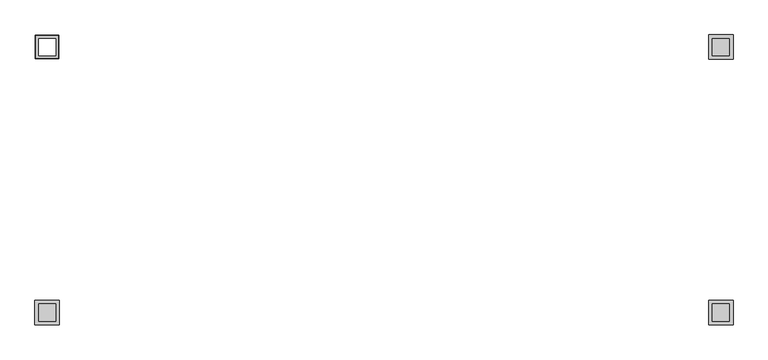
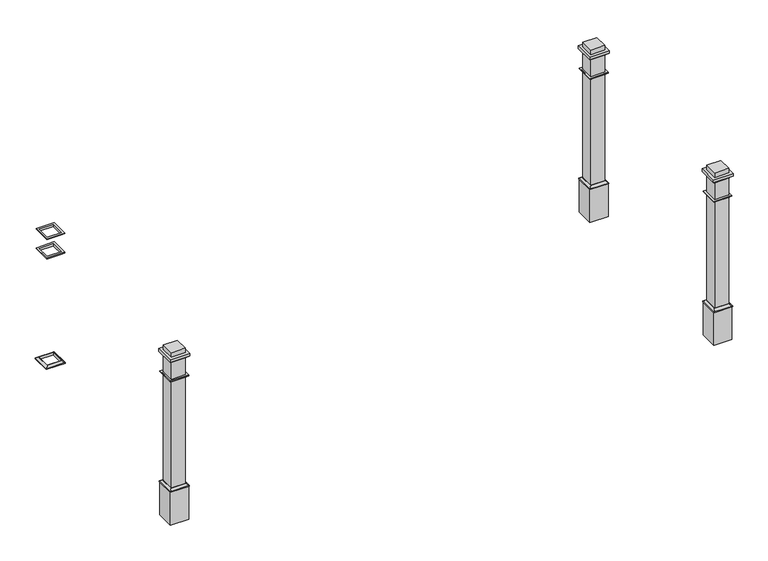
"""IFC4 building model written with IfcOpenShell, lengths in millimetres: railing geometry, Deco Type."""

from ifc_helpers import new_model, si_unit, frame, origin, place, context, project, spatial, polyline, ellipse_curve, outline, extrude, faceted_brep, source, transform, mapped, element, save
from ifc_brep_helpers import plane_surface, revolved_surface, advanced_brep


def railing_41ab062b(model_context):
    return source(origin(), model_context, "Body", "SolidModel", [
        advanced_brep(
        [(5407.8905852, 13388.0931951, 6197.6), (5407.8905852, 13388.0931951, 6219.825), (5287.2405852, 13388.0931951, 6219.825), (5287.2405852, 13388.0931951, 6197.6), (5430.1155852, 13410.3181951, 6203.95), (5430.1155852, 13410.3181951, 6197.6), (5265.0155852, 13410.3181951, 6197.6), (5265.0155852, 13410.3181951, 6203.95), (5414.2405852, 13394.4431951, 6219.825), (5280.8905852, 13394.4431951, 6219.825), (5287.2405852, 13267.4431951, 6219.825), (5287.2405852, 13267.4431951, 6197.6), (5265.0155852, 13245.2181951, 6197.6), (5265.0155852, 13245.2181951, 6203.95), (5280.8905852, 13261.0931951, 6219.825), (5407.8905852, 13267.4431951, 6219.825), (5407.8905852, 13267.4431951, 6197.6), (5430.1155852, 13245.2181951, 6197.6), (5430.1155852, 13245.2181951, 6203.95), (5414.2405852, 13261.0931951, 6219.825)],
        [
            (0, 1),
            (1, 2),
            (2, 3),
            (3, 0),
            (4, 5),
            (5, 6),
            (6, 7),
            (7, 4),
            (8, 4, ellipse_curve(frame((5430.1155852, 13410.3181951, 6219.825), z_axis=(0.7071067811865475, -0.7071067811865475, 0.0), x_axis=(-0.7071067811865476, -0.7071067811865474, 0.0)), 22.4506403, 15.875)),
            (7, 9, ellipse_curve(frame((5265.0155852, 13410.3181951, 6219.825), z_axis=(-0.7071067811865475, -0.7071067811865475, 0.0), x_axis=(-0.7071067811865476, 0.7071067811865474, 0.0)), 22.4506403, 15.875)),
            (9, 8),
            (2, 10),
            (10, 11),
            (11, 3),
            (6, 12),
            (12, 13),
            (13, 7),
            (13, 14, ellipse_curve(frame((5265.0155852, 13245.2181951, 6219.825), z_axis=(0.7071067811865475, -0.7071067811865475, 0.0), x_axis=(-0.7071067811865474, -0.7071067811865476, 0.0)), 22.4506403, 15.875)),
            (14, 9),
            (10, 15),
            (15, 16),
            (16, 11),
            (12, 17),
            (17, 18),
            (18, 13),
            (18, 19, ellipse_curve(frame((5430.1155852, 13245.2181951, 6219.825), z_axis=(0.7071067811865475, 0.7071067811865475, 0.0), x_axis=(0.7071067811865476, -0.7071067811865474, 0.0)), 22.4506403, 15.875)),
            (19, 14),
            (15, 1),
            (0, 16),
            (5, 17),
            (4, 18),
            (8, 19),
        ],
        [
            plane_surface(frame((5407.8905852, 13388.0931951, 6219.825), z_axis=(0.0, -1.0, 0.0), x_axis=(-1.0, 0.0, 0.0))),
            plane_surface(frame((5430.1155852, 13410.3181951, 6197.6), z_axis=(0.0, 1.0, 0.0), x_axis=(-1.0, 0.0, 0.0))),
            revolved_surface(polyline([(5249.14058520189, 13394.4431951, 6219.825), (5445.99058519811, 13394.4431951, 6219.825)]), (5407.8905852, 13410.3181951, 6219.825), (-1.0, 0.0, 0.0)),
            plane_surface(frame((5287.2405852, 13388.0931951, 6219.825), z_axis=(1.0, 0.0, 0.0), x_axis=(0.0, -1.0, 0.0))),
            plane_surface(frame((5265.0155852, 13410.3181951, 6197.6), z_axis=(-1.0, 0.0, 0.0), x_axis=(0.0, -1.0, 0.0))),
            revolved_surface(polyline([(5280.8905852, 13229.34319510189, 6219.825), (5280.8905852, 13426.19319509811, 6219.825)]), (5265.0155852, 13388.0931951, 6219.825), (0.0, -1.0, 0.0)),
            plane_surface(frame((5287.2405852, 13267.4431951, 6219.825), z_axis=(0.0, 1.0, 0.0), x_axis=(1.0, 0.0, 0.0))),
            plane_surface(frame((5265.0155852, 13245.2181951, 6197.6), z_axis=(0.0, -1.0, 0.0), x_axis=(1.0, 0.0, 0.0))),
            revolved_surface(polyline([(5445.99058519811, 13261.0931951, 6219.825), (5249.14058520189, 13261.0931951, 6219.825)]), (5287.2405852, 13245.2181951, 6219.825), (1.0, 0.0, 0.0)),
            plane_surface(frame((5407.8905852, 13267.4431951, 6219.825), z_axis=(-1.0, 0.0, 0.0), x_axis=(0.0, 1.0, 0.0))),
            plane_surface(frame((5407.8905852, 13267.4431951, 6197.6), z_axis=(0.0, 0.0, -1.0), x_axis=(0.0, 1.0, 0.0))),
            plane_surface(frame((5430.1155852, 13245.2181951, 6197.6), z_axis=(1.0, 0.0, 0.0), x_axis=(0.0, 1.0, 0.0))),
            revolved_surface(polyline([(5414.2405852, 13426.19319509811, 6219.825), (5414.2405852, 13229.34319510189, 6219.825)]), (5430.1155852, 13267.4431951, 6219.825), (0.0, 1.0, 0.0)),
            plane_surface(frame((5414.2405852, 13261.0931951, 6219.825), z_axis=(0.0, 0.0, 1.0), x_axis=(0.0, 1.0, 0.0))),
        ],
        [
            (0, [[1, 2, 3, 4]]),
            (1, [[5, 6, 7, 8]]),
            (2, [[9, -8, 10, 11]]),
            (3, [[-3, 12, 13, 14]]),
            (4, [[-7, 15, 16, 17]]),
            (5, [[-10, -17, 18, 19]]),
            (6, [[-13, 20, 21, 22]]),
            (7, [[-16, 23, 24, 25]]),
            (8, [[-18, -25, 26, 27]]),
            (9, [[-21, 28, -1, 29]]),
            (10, [[30, -23, -15, -6], [-14, -22, -29, -4]]),
            (11, [[-24, -30, -5, 31]]),
            (12, [[-26, -31, -9, 32]]),
            (13, [[-19, -27, -32, -11], [-28, -20, -12, -2]]),
        ],
    ),
        advanced_brep(
        [(5407.8905852, 13388.0931951, 7204.075), (5407.8905852, 13388.0931951, 7223.125), (5287.2405852, 13388.0931951, 7223.125), (5287.2405852, 13388.0931951, 7204.075), (5426.9405852, 13407.1431951, 7216.775), (5414.2405852, 13394.4431951, 7204.075), (5280.8905852, 13394.4431951, 7204.075), (5268.1905852, 13407.1431951, 7216.775), (5426.9405852, 13407.1431951, 7223.125), (5268.1905852, 13407.1431951, 7223.125), (5287.2405852, 13267.4431951, 7223.125), (5287.2405852, 13267.4431951, 7204.075), (5280.8905852, 13261.0931951, 7204.075), (5268.1905852, 13248.3931951, 7216.775), (5268.1905852, 13248.3931951, 7223.125), (5407.8905852, 13267.4431951, 7223.125), (5407.8905852, 13267.4431951, 7204.075), (5414.2405852, 13261.0931951, 7204.075), (5426.9405852, 13248.3931951, 7216.775), (5426.9405852, 13248.3931951, 7223.125)],
        [
            (0, 1),
            (1, 2),
            (2, 3),
            (3, 0),
            (4, 5, ellipse_curve(frame((5426.9405852, 13407.1431951, 7204.075), z_axis=(0.7071067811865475, -0.7071067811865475, 0.0), x_axis=(-0.7071067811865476, -0.7071067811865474, 0.0)), 17.9605122, 12.7)),
            (5, 6),
            (6, 7, ellipse_curve(frame((5268.1905852, 13407.1431951, 7204.075), z_axis=(-0.7071067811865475, -0.7071067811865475, 0.0), x_axis=(-0.7071067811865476, 0.7071067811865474, 0.0)), 17.9605122, 12.7)),
            (7, 4),
            (8, 4),
            (7, 9),
            (9, 8),
            (2, 10),
            (10, 11),
            (11, 3),
            (6, 12),
            (12, 13, ellipse_curve(frame((5268.1905852, 13248.3931951, 7204.075), z_axis=(0.7071067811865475, -0.7071067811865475, 0.0), x_axis=(-0.7071067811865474, -0.7071067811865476, 0.0)), 17.9605122, 12.7)),
            (13, 7),
            (13, 14),
            (14, 9),
            (10, 15),
            (15, 16),
            (16, 11),
            (12, 17),
            (17, 18, ellipse_curve(frame((5426.9405852, 13248.3931951, 7204.075), z_axis=(0.7071067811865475, 0.7071067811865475, 0.0), x_axis=(0.7071067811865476, -0.7071067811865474, 0.0)), 17.9605122, 12.7)),
            (18, 13),
            (18, 19),
            (19, 14),
            (19, 8),
            (1, 15),
            (0, 16),
            (5, 17),
            (4, 18),
        ],
        [
            plane_surface(frame((5407.8905852, 13388.0931951, 7223.125), z_axis=(0.0, -1.0, 0.0), x_axis=(-1.0, 0.0, 0.0))),
            revolved_surface(polyline([(5255.490585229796, 13394.443195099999, 7204.075), (5439.640585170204, 13394.443195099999, 7204.075)]), (5407.8905852, 13407.1431951, 7204.075), (-1.0, 0.0, 0.0)),
            plane_surface(frame((5426.9405852, 13407.1431951, 7216.775), z_axis=(0.0, 1.0, 0.0), x_axis=(-1.0, 0.0, 0.0))),
            plane_surface(frame((5287.2405852, 13388.0931951, 7223.125), z_axis=(1.0, 0.0, 0.0), x_axis=(0.0, -1.0, 0.0))),
            revolved_surface(polyline([(5280.8905852, 13235.693195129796, 7204.075), (5280.8905852, 13419.843195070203, 7204.075)]), (5268.1905852, 13388.0931951, 7204.075), (0.0, -1.0, 0.0)),
            plane_surface(frame((5268.1905852, 13407.1431951, 7216.775), z_axis=(-1.0, 0.0, 0.0), x_axis=(0.0, -1.0, 0.0))),
            plane_surface(frame((5287.2405852, 13267.4431951, 7223.125), z_axis=(0.0, 1.0, 0.0), x_axis=(1.0, 0.0, 0.0))),
            revolved_surface(polyline([(5439.640585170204, 13261.0931951, 7204.075), (5255.490585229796, 13261.0931951, 7204.075)]), (5287.2405852, 13248.3931951, 7204.075), (1.0, 0.0, 0.0)),
            plane_surface(frame((5268.1905852, 13248.3931951, 7216.775), z_axis=(0.0, -1.0, 0.0), x_axis=(1.0, 0.0, 0.0))),
            plane_surface(frame((5426.9405852, 13248.3931951, 7223.125), z_axis=(0.0, 0.0, 1.0), x_axis=(0.0, 1.0, 0.0))),
            plane_surface(frame((5407.8905852, 13267.4431951, 7223.125), z_axis=(-1.0, 0.0, 0.0), x_axis=(0.0, 1.0, 0.0))),
            plane_surface(frame((5407.8905852, 13267.4431951, 7204.075), z_axis=(0.0, 0.0, -1.0), x_axis=(0.0, 1.0, 0.0))),
            revolved_surface(polyline([(5414.2405852, 13419.843195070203, 7204.075), (5414.2405852, 13235.693195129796, 7204.075)]), (5426.9405852, 13267.4431951, 7204.075), (0.0, 1.0, 0.0)),
            plane_surface(frame((5426.9405852, 13248.3931951, 7216.775), z_axis=(1.0, 0.0, 0.0), x_axis=(0.0, 1.0, 0.0))),
        ],
        [
            (0, [[1, 2, 3, 4]]),
            (1, [[5, 6, 7, 8]]),
            (2, [[9, -8, 10, 11]]),
            (3, [[-3, 12, 13, 14]]),
            (4, [[-7, 15, 16, 17]]),
            (5, [[-10, -17, 18, 19]]),
            (6, [[-13, 20, 21, 22]]),
            (7, [[-16, 23, 24, 25]]),
            (8, [[-18, -25, 26, 27]]),
            (9, [[-19, -27, 28, -11], [29, -20, -12, -2]]),
            (10, [[-21, -29, -1, 30]]),
            (11, [[31, -23, -15, -6], [-14, -22, -30, -4]]),
            (12, [[-24, -31, -5, 32]]),
            (13, [[-26, -32, -9, -28]]),
        ],
    ),
        faceted_brep([(5407.8905852, 13388.0931951, 7381.875), (5407.8905852, 13388.0931951, 7400.925), (5287.2405852, 13388.0931951, 7400.925), (5287.2405852, 13388.0931951, 7381.875), (5414.2405852, 13394.4431951, 7394.575), (5414.2405852, 13394.4431951, 7381.875), (5280.8905852, 13394.4431951, 7381.875), (5280.8905852, 13394.4431951, 7394.575), (5426.9405852, 13407.1431951, 7400.925), (5426.9405852, 13407.1431951, 7394.575), (5268.1905852, 13407.1431951, 7394.575), (5268.1905852, 13407.1431951, 7400.925), (5287.2405852, 13267.4431951, 7400.925), (5287.2405852, 13267.4431951, 7381.875), (5280.8905852, 13261.0931951, 7381.875), (5280.8905852, 13261.0931951, 7394.575), (5268.1905852, 13248.3931951, 7394.575), (5268.1905852, 13248.3931951, 7400.925), (5407.8905852, 13267.4431951, 7400.925), (5407.8905852, 13267.4431951, 7381.875), (5414.2405852, 13261.0931951, 7381.875), (5414.2405852, 13261.0931951, 7394.575), (5426.9405852, 13248.3931951, 7394.575), (5426.9405852, 13248.3931951, 7400.925)], [[[0, 1, 2, 3]], [[4, 5, 6, 7]], [[8, 9, 10, 11]], [[3, 2, 12, 13]], [[7, 6, 14, 15]], [[11, 10, 16, 17]], [[13, 12, 18, 19]], [[15, 14, 20, 21]], [[17, 16, 22, 23]], [[19, 18, 1, 0]], [[5, 20, 14, 6], [3, 13, 19, 0]], [[21, 20, 5, 4]], [[9, 22, 16, 10], [7, 15, 21, 4]], [[23, 22, 9, 8]], [[11, 17, 23, 8], [1, 18, 12, 2]]]),
        extrude(outline(polyline([(10010.8468352, 13248.3931951), (10010.8468352, 13407.1431951), (10169.5968352, 13407.1431951), (10169.5968352, 13248.3931951), (10010.8468352, 13248.3931951)])), frame((0.0, 0.0, 5892.8), z_axis=(0.0, 0.0, 1.0), x_axis=(1.0, 0.0, 0.0)), (0.0, 0.0, 1.0), 304.8),
        extrude(outline(polyline([(10029.8968352, 13267.4431951), (10029.8968352, 13388.0931951), (10150.5468352, 13388.0931951), (10150.5468352, 13267.4431951), (10029.8968352, 13267.4431951)])), frame((0.0, 0.0, 6197.6), z_axis=(0.0, 0.0, 1.0), x_axis=(1.0, 0.0, 0.0)), (0.0, 0.0, 1.0), 1270.0),
        extrude(outline(polyline([(10175.9468352, 13242.0431951), (10004.4968352, 13242.0431951), (10004.4968352, 13413.4931951), (10175.9468352, 13413.4931951), (10175.9468352, 13242.0431951)]), holes=[polyline([(10150.5468352, 13388.0931951), (10029.8968352, 13388.0931951), (10029.8968352, 13267.4431951), (10150.5468352, 13267.4431951), (10150.5468352, 13388.0931951)])]), frame((0.0, 0.0, 7400.925), z_axis=(0.0, 0.0, 1.0), x_axis=(1.0, 0.0, 0.0)), (0.0, 0.0, 1.0), 25.4),
        advanced_brep(
        [(10150.5468352, 13267.4431951, 6197.6), (10150.5468352, 13267.4431951, 6219.825), (10150.5468352, 13388.0931951, 6219.825), (10150.5468352, 13388.0931951, 6197.6), (10172.7718352, 13245.2181951, 6203.95), (10172.7718352, 13245.2181951, 6197.6), (10172.7718352, 13410.3181951, 6197.6), (10172.7718352, 13410.3181951, 6203.95), (10156.8968352, 13261.0931951, 6219.825), (10156.8968352, 13394.4431951, 6219.825), (10029.8968352, 13388.0931951, 6219.825), (10029.8968352, 13388.0931951, 6197.6), (10007.6718352, 13410.3181951, 6197.6), (10007.6718352, 13410.3181951, 6203.95), (10023.5468352, 13394.4431951, 6219.825), (10029.8968352, 13267.4431951, 6219.825), (10029.8968352, 13267.4431951, 6197.6), (10007.6718352, 13245.2181951, 6197.6), (10007.6718352, 13245.2181951, 6203.95), (10023.5468352, 13261.0931951, 6219.825)],
        [
            (0, 1),
            (1, 2),
            (2, 3),
            (3, 0),
            (4, 5),
            (5, 6),
            (6, 7),
            (7, 4),
            (8, 4, ellipse_curve(frame((10172.7718352, 13245.2181951, 6219.825), z_axis=(-0.7071067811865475, -0.7071067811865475, 0.0), x_axis=(-0.7071067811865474, 0.7071067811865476, 0.0)), 22.4506403, 15.875)),
            (7, 9, ellipse_curve(frame((10172.7718352, 13410.3181951, 6219.825), z_axis=(-0.7071067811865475, 0.7071067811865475, 0.0), x_axis=(0.7071067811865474, 0.7071067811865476, 0.0)), 22.4506403, 15.875)),
            (9, 8),
            (2, 10),
            (10, 11),
            (11, 3),
            (6, 12),
            (12, 13),
            (13, 7),
            (13, 14, ellipse_curve(frame((10007.6718352, 13410.3181951, 6219.825), z_axis=(-0.7071067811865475, -0.7071067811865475, 0.0), x_axis=(-0.7071067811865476, 0.7071067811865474, 0.0)), 22.4506403, 15.875)),
            (14, 9),
            (10, 15),
            (15, 16),
            (16, 11),
            (12, 17),
            (17, 18),
            (18, 13),
            (18, 19, ellipse_curve(frame((10007.6718352, 13245.2181951, 6219.825), z_axis=(0.7071067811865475, -0.7071067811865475, 0.0), x_axis=(-0.7071067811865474, -0.7071067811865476, 0.0)), 22.4506403, 15.875)),
            (19, 14),
            (15, 1),
            (0, 16),
            (5, 17),
            (4, 18),
            (8, 19),
        ],
        [
            plane_surface(frame((10150.5468352, 13267.4431951, 6219.825), z_axis=(-1.0, 0.0, 0.0), x_axis=(0.0, 1.0, 0.0))),
            plane_surface(frame((10172.7718352, 13245.2181951, 6197.6), z_axis=(1.0, 0.0, 0.0), x_axis=(0.0, 1.0, 0.0))),
            revolved_surface(polyline([(10156.8968352, 13426.19319509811, 6219.825), (10156.8968352, 13229.34319510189, 6219.825)]), (10172.7718352, 13267.4431951, 6219.825), (0.0, 1.0, 0.0)),
            plane_surface(frame((10150.5468352, 13388.0931951, 6219.825), z_axis=(0.0, -1.0, 0.0), x_axis=(-1.0, 0.0, 0.0))),
            plane_surface(frame((10172.7718352, 13410.3181951, 6197.6), z_axis=(0.0, 1.0, 0.0), x_axis=(-1.0, 0.0, 0.0))),
            revolved_surface(polyline([(9991.79683520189, 13394.4431951, 6219.825), (10188.64683519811, 13394.4431951, 6219.825)]), (10150.5468352, 13410.3181951, 6219.825), (-1.0, 0.0, 0.0)),
            plane_surface(frame((10029.8968352, 13388.0931951, 6219.825), z_axis=(1.0, 0.0, 0.0), x_axis=(0.0, -1.0, 0.0))),
            plane_surface(frame((10007.6718352, 13410.3181951, 6197.6), z_axis=(-1.0, 0.0, 0.0), x_axis=(0.0, -1.0, 0.0))),
            revolved_surface(polyline([(10023.5468352, 13229.34319510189, 6219.825), (10023.5468352, 13426.19319509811, 6219.825)]), (10007.6718352, 13388.0931951, 6219.825), (0.0, -1.0, 0.0)),
            plane_surface(frame((10029.8968352, 13267.4431951, 6219.825), z_axis=(0.0, 1.0, 0.0), x_axis=(1.0, 0.0, 0.0))),
            plane_surface(frame((10029.8968352, 13267.4431951, 6197.6), z_axis=(0.0, 0.0, -1.0), x_axis=(1.0, 0.0, 0.0))),
            plane_surface(frame((10007.6718352, 13245.2181951, 6197.6), z_axis=(0.0, -1.0, 0.0), x_axis=(1.0, 0.0, 0.0))),
            revolved_surface(polyline([(10188.64683519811, 13261.0931951, 6219.825), (9991.79683520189, 13261.0931951, 6219.825)]), (10029.8968352, 13245.2181951, 6219.825), (1.0, 0.0, 0.0)),
            plane_surface(frame((10023.5468352, 13261.0931951, 6219.825), z_axis=(0.0, 0.0, 1.0), x_axis=(1.0, 0.0, 0.0))),
        ],
        [
            (0, [[1, 2, 3, 4]]),
            (1, [[5, 6, 7, 8]]),
            (2, [[9, -8, 10, 11]]),
            (3, [[-3, 12, 13, 14]]),
            (4, [[-7, 15, 16, 17]]),
            (5, [[-10, -17, 18, 19]]),
            (6, [[-13, 20, 21, 22]]),
            (7, [[-16, 23, 24, 25]]),
            (8, [[-18, -25, 26, 27]]),
            (9, [[-21, 28, -1, 29]]),
            (10, [[30, -23, -15, -6], [-14, -22, -29, -4]]),
            (11, [[-24, -30, -5, 31]]),
            (12, [[-26, -31, -9, 32]]),
            (13, [[-19, -27, -32, -11], [-28, -20, -12, -2]]),
        ],
    ),
        advanced_brep(
        [(10150.5468352, 13267.4431951, 7204.075), (10150.5468352, 13267.4431951, 7223.125), (10150.5468352, 13388.0931951, 7223.125), (10150.5468352, 13388.0931951, 7204.075), (10169.5968352, 13248.3931951, 7216.775), (10156.8968352, 13261.0931951, 7204.075), (10156.8968352, 13394.4431951, 7204.075), (10169.5968352, 13407.1431951, 7216.775), (10169.5968352, 13248.3931951, 7223.125), (10169.5968352, 13407.1431951, 7223.125), (10029.8968352, 13388.0931951, 7223.125), (10029.8968352, 13388.0931951, 7204.075), (10023.5468352, 13394.4431951, 7204.075), (10010.8468352, 13407.1431951, 7216.775), (10010.8468352, 13407.1431951, 7223.125), (10029.8968352, 13267.4431951, 7223.125), (10029.8968352, 13267.4431951, 7204.075), (10023.5468352, 13261.0931951, 7204.075), (10010.8468352, 13248.3931951, 7216.775), (10010.8468352, 13248.3931951, 7223.125)],
        [
            (0, 1),
            (1, 2),
            (2, 3),
            (3, 0),
            (4, 5, ellipse_curve(frame((10169.5968352, 13248.3931951, 7204.075), z_axis=(-0.7071067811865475, -0.7071067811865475, 0.0), x_axis=(-0.7071067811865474, 0.7071067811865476, 0.0)), 17.9605122, 12.7)),
            (5, 6),
            (6, 7, ellipse_curve(frame((10169.5968352, 13407.1431951, 7204.075), z_axis=(-0.7071067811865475, 0.7071067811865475, 0.0), x_axis=(0.7071067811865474, 0.7071067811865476, 0.0)), 17.9605122, 12.7)),
            (7, 4),
            (8, 4),
            (7, 9),
            (9, 8),
            (2, 10),
            (10, 11),
            (11, 3),
            (6, 12),
            (12, 13, ellipse_curve(frame((10010.8468352, 13407.1431951, 7204.075), z_axis=(-0.7071067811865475, -0.7071067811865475, 0.0), x_axis=(-0.7071067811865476, 0.7071067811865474, 0.0)), 17.9605122, 12.7)),
            (13, 7),
            (13, 14),
            (14, 9),
            (10, 15),
            (15, 16),
            (16, 11),
            (12, 17),
            (17, 18, ellipse_curve(frame((10010.8468352, 13248.3931951, 7204.075), z_axis=(0.7071067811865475, -0.7071067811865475, 0.0), x_axis=(-0.7071067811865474, -0.7071067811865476, 0.0)), 17.9605122, 12.7)),
            (18, 13),
            (18, 19),
            (19, 14),
            (19, 8),
            (1, 15),
            (0, 16),
            (5, 17),
            (4, 18),
        ],
        [
            plane_surface(frame((10150.5468352, 13267.4431951, 7223.125), z_axis=(-1.0, 0.0, 0.0), x_axis=(0.0, 1.0, 0.0))),
            revolved_surface(polyline([(10156.8968352, 13419.843195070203, 7204.075), (10156.8968352, 13235.693195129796, 7204.075)]), (10169.5968352, 13267.4431951, 7204.075), (0.0, 1.0, 0.0)),
            plane_surface(frame((10169.5968352, 13248.3931951, 7216.775), z_axis=(1.0, 0.0, 0.0), x_axis=(0.0, 1.0, 0.0))),
            plane_surface(frame((10150.5468352, 13388.0931951, 7223.125), z_axis=(0.0, -1.0, 0.0), x_axis=(-1.0, 0.0, 0.0))),
            revolved_surface(polyline([(9998.146835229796, 13394.443195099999, 7204.075), (10182.296835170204, 13394.443195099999, 7204.075)]), (10150.5468352, 13407.1431951, 7204.075), (-1.0, 0.0, 0.0)),
            plane_surface(frame((10169.5968352, 13407.1431951, 7216.775), z_axis=(0.0, 1.0, 0.0), x_axis=(-1.0, 0.0, 0.0))),
            plane_surface(frame((10029.8968352, 13388.0931951, 7223.125), z_axis=(1.0, 0.0, 0.0), x_axis=(0.0, -1.0, 0.0))),
            revolved_surface(polyline([(10023.5468352, 13235.693195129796, 7204.075), (10023.5468352, 13419.843195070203, 7204.075)]), (10010.8468352, 13388.0931951, 7204.075), (0.0, -1.0, 0.0)),
            plane_surface(frame((10010.8468352, 13407.1431951, 7216.775), z_axis=(-1.0, 0.0, 0.0), x_axis=(0.0, -1.0, 0.0))),
            plane_surface(frame((10010.8468352, 13248.3931951, 7223.125), z_axis=(0.0, 0.0, 1.0), x_axis=(1.0, 0.0, 0.0))),
            plane_surface(frame((10029.8968352, 13267.4431951, 7223.125), z_axis=(0.0, 1.0, 0.0), x_axis=(1.0, 0.0, 0.0))),
            plane_surface(frame((10029.8968352, 13267.4431951, 7204.075), z_axis=(0.0, 0.0, -1.0), x_axis=(1.0, 0.0, 0.0))),
            revolved_surface(polyline([(10182.296835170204, 13261.0931951, 7204.075), (9998.146835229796, 13261.0931951, 7204.075)]), (10029.8968352, 13248.3931951, 7204.075), (1.0, 0.0, 0.0)),
            plane_surface(frame((10010.8468352, 13248.3931951, 7216.775), z_axis=(0.0, -1.0, 0.0), x_axis=(1.0, 0.0, 0.0))),
        ],
        [
            (0, [[1, 2, 3, 4]]),
            (1, [[5, 6, 7, 8]]),
            (2, [[9, -8, 10, 11]]),
            (3, [[-3, 12, 13, 14]]),
            (4, [[-7, 15, 16, 17]]),
            (5, [[-10, -17, 18, 19]]),
            (6, [[-13, 20, 21, 22]]),
            (7, [[-16, 23, 24, 25]]),
            (8, [[-18, -25, 26, 27]]),
            (9, [[-19, -27, 28, -11], [29, -20, -12, -2]]),
            (10, [[-21, -29, -1, 30]]),
            (11, [[31, -23, -15, -6], [-14, -22, -30, -4]]),
            (12, [[-24, -31, -5, 32]]),
            (13, [[-26, -32, -9, -28]]),
        ],
    ),
        faceted_brep([(10150.5468352, 13267.4431951, 7381.875), (10150.5468352, 13267.4431951, 7400.925), (10150.5468352, 13388.0931951, 7400.925), (10150.5468352, 13388.0931951, 7381.875), (10156.8968352, 13261.0931951, 7394.575), (10156.8968352, 13261.0931951, 7381.875), (10156.8968352, 13394.4431951, 7381.875), (10156.8968352, 13394.4431951, 7394.575), (10169.5968352, 13248.3931951, 7400.925), (10169.5968352, 13248.3931951, 7394.575), (10169.5968352, 13407.1431951, 7394.575), (10169.5968352, 13407.1431951, 7400.925), (10029.8968352, 13388.0931951, 7400.925), (10029.8968352, 13388.0931951, 7381.875), (10023.5468352, 13394.4431951, 7381.875), (10023.5468352, 13394.4431951, 7394.575), (10010.8468352, 13407.1431951, 7394.575), (10010.8468352, 13407.1431951, 7400.925), (10029.8968352, 13267.4431951, 7400.925), (10029.8968352, 13267.4431951, 7381.875), (10023.5468352, 13261.0931951, 7381.875), (10023.5468352, 13261.0931951, 7394.575), (10010.8468352, 13248.3931951, 7394.575), (10010.8468352, 13248.3931951, 7400.925)], [[[0, 1, 2, 3]], [[4, 5, 6, 7]], [[8, 9, 10, 11]], [[3, 2, 12, 13]], [[7, 6, 14, 15]], [[11, 10, 16, 17]], [[13, 12, 18, 19]], [[15, 14, 20, 21]], [[17, 16, 22, 23]], [[19, 18, 1, 0]], [[5, 20, 14, 6], [3, 13, 19, 0]], [[21, 20, 5, 4]], [[9, 22, 16, 10], [7, 15, 21, 4]], [[23, 22, 9, 8]], [[11, 17, 23, 8], [1, 18, 12, 2]]]),
        extrude(outline(polyline([(5426.9405852, 11535.0838201), (5426.9405852, 11376.3338201), (5268.1905852, 11376.3338201), (5268.1905852, 11535.0838201), (5426.9405852, 11535.0838201)])), frame((0.0, 0.0, 5892.8), z_axis=(0.0, 0.0, 1.0), x_axis=(1.0, 0.0, 0.0)), (0.0, 0.0, 1.0), 304.8),
        extrude(outline(polyline([(5407.8905852, 11516.0338201), (5407.8905852, 11395.3838201), (5287.2405852, 11395.3838201), (5287.2405852, 11516.0338201), (5407.8905852, 11516.0338201)])), frame((0.0, 0.0, 6197.6), z_axis=(0.0, 0.0, 1.0), x_axis=(1.0, 0.0, 0.0)), (0.0, 0.0, 1.0), 1270.0),
        extrude(outline(polyline([(5261.8405852, 11541.4338201), (5433.2905852, 11541.4338201), (5433.2905852, 11369.9838201), (5261.8405852, 11369.9838201), (5261.8405852, 11541.4338201)]), holes=[polyline([(5287.2405852, 11395.3838201), (5407.8905852, 11395.3838201), (5407.8905852, 11516.0338201), (5287.2405852, 11516.0338201), (5287.2405852, 11395.3838201)])]), frame((0.0, 0.0, 7400.925), z_axis=(0.0, 0.0, 1.0), x_axis=(1.0, 0.0, 0.0)), (0.0, 0.0, 1.0), 25.4),
        advanced_brep(
        [(5287.2405852, 11516.0338201, 6197.6), (5287.2405852, 11516.0338201, 6219.825), (5287.2405852, 11395.3838201, 6219.825), (5287.2405852, 11395.3838201, 6197.6), (5265.0155852, 11538.2588201, 6203.95), (5265.0155852, 11538.2588201, 6197.6), (5265.0155852, 11373.1588201, 6197.6), (5265.0155852, 11373.1588201, 6203.95), (5280.8905852, 11522.3838201, 6219.825), (5280.8905852, 11389.0338201, 6219.825), (5407.8905852, 11395.3838201, 6219.825), (5407.8905852, 11395.3838201, 6197.6), (5430.1155852, 11373.1588201, 6197.6), (5430.1155852, 11373.1588201, 6203.95), (5414.2405852, 11389.0338201, 6219.825), (5407.8905852, 11516.0338201, 6219.825), (5407.8905852, 11516.0338201, 6197.6), (5430.1155852, 11538.2588201, 6197.6), (5430.1155852, 11538.2588201, 6203.95), (5414.2405852, 11522.3838201, 6219.825)],
        [
            (0, 1),
            (1, 2),
            (2, 3),
            (3, 0),
            (4, 5),
            (5, 6),
            (6, 7),
            (7, 4),
            (8, 4, ellipse_curve(frame((5265.0155852, 11538.2588201, 6219.825), z_axis=(0.7071067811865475, 0.7071067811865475, 0.0), x_axis=(0.7071067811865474, -0.7071067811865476, 0.0)), 22.4506403, 15.875)),
            (7, 9, ellipse_curve(frame((5265.0155852, 11373.1588201, 6219.825), z_axis=(0.7071067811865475, -0.7071067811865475, 0.0), x_axis=(-0.7071067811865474, -0.7071067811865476, 0.0)), 22.4506403, 15.875)),
            (9, 8),
            (2, 10),
            (10, 11),
            (11, 3),
            (6, 12),
            (12, 13),
            (13, 7),
            (13, 14, ellipse_curve(frame((5430.1155852, 11373.1588201, 6219.825), z_axis=(0.7071067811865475, 0.7071067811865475, 0.0), x_axis=(0.7071067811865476, -0.7071067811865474, 0.0)), 22.4506403, 15.875)),
            (14, 9),
            (10, 15),
            (15, 16),
            (16, 11),
            (12, 17),
            (17, 18),
            (18, 13),
            (18, 19, ellipse_curve(frame((5430.1155852, 11538.2588201, 6219.825), z_axis=(-0.7071067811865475, 0.7071067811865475, 0.0), x_axis=(0.7071067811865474, 0.7071067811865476, 0.0)), 22.4506403, 15.875)),
            (19, 14),
            (15, 1),
            (0, 16),
            (5, 17),
            (4, 18),
            (8, 19),
        ],
        [
            plane_surface(frame((5287.2405852, 11516.0338201, 6219.825), z_axis=(1.0, 0.0, 0.0), x_axis=(0.0, -1.0, 0.0))),
            plane_surface(frame((5265.0155852, 11538.2588201, 6197.6), z_axis=(-1.0, 0.0, 0.0), x_axis=(0.0, -1.0, 0.0))),
            revolved_surface(polyline([(5280.8905852, 11357.28382010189, 6219.825), (5280.8905852, 11554.13382009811, 6219.825)]), (5265.0155852, 11516.0338201, 6219.825), (0.0, -1.0, 0.0)),
            plane_surface(frame((5287.2405852, 11395.3838201, 6219.825), z_axis=(0.0, 1.0, 0.0), x_axis=(1.0, 0.0, 0.0))),
            plane_surface(frame((5265.0155852, 11373.1588201, 6197.6), z_axis=(0.0, -1.0, 0.0), x_axis=(1.0, 0.0, 0.0))),
            revolved_surface(polyline([(5445.99058519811, 11389.0338201, 6219.825), (5249.14058520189, 11389.0338201, 6219.825)]), (5287.2405852, 11373.1588201, 6219.825), (1.0, 0.0, 0.0)),
            plane_surface(frame((5407.8905852, 11395.3838201, 6219.825), z_axis=(-1.0, 0.0, 0.0), x_axis=(0.0, 1.0, 0.0))),
            plane_surface(frame((5430.1155852, 11373.1588201, 6197.6), z_axis=(1.0, 0.0, 0.0), x_axis=(0.0, 1.0, 0.0))),
            revolved_surface(polyline([(5414.2405852, 11554.13382009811, 6219.825), (5414.2405852, 11357.28382010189, 6219.825)]), (5430.1155852, 11395.3838201, 6219.825), (0.0, 1.0, 0.0)),
            plane_surface(frame((5407.8905852, 11516.0338201, 6219.825), z_axis=(0.0, -1.0, 0.0), x_axis=(-1.0, 0.0, 0.0))),
            plane_surface(frame((5407.8905852, 11516.0338201, 6197.6), z_axis=(0.0, 0.0, -1.0), x_axis=(-1.0, 0.0, 0.0))),
            plane_surface(frame((5430.1155852, 11538.2588201, 6197.6), z_axis=(0.0, 1.0, 0.0), x_axis=(-1.0, 0.0, 0.0))),
            revolved_surface(polyline([(5249.14058520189, 11522.3838201, 6219.825), (5445.99058519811, 11522.3838201, 6219.825)]), (5407.8905852, 11538.2588201, 6219.825), (-1.0, 0.0, 0.0)),
            plane_surface(frame((5414.2405852, 11522.3838201, 6219.825), z_axis=(0.0, 0.0, 1.0), x_axis=(-1.0, 0.0, 0.0))),
        ],
        [
            (0, [[1, 2, 3, 4]]),
            (1, [[5, 6, 7, 8]]),
            (2, [[9, -8, 10, 11]]),
            (3, [[-3, 12, 13, 14]]),
            (4, [[-7, 15, 16, 17]]),
            (5, [[-10, -17, 18, 19]]),
            (6, [[-13, 20, 21, 22]]),
            (7, [[-16, 23, 24, 25]]),
            (8, [[-18, -25, 26, 27]]),
            (9, [[-21, 28, -1, 29]]),
            (10, [[30, -23, -15, -6], [-14, -22, -29, -4]]),
            (11, [[-24, -30, -5, 31]]),
            (12, [[-26, -31, -9, 32]]),
            (13, [[-19, -27, -32, -11], [-28, -20, -12, -2]]),
        ],
    ),
        advanced_brep(
        [(5287.2405852, 11516.0338201, 7204.075), (5287.2405852, 11516.0338201, 7223.125), (5287.2405852, 11395.3838201, 7223.125), (5287.2405852, 11395.3838201, 7204.075), (5268.1905852, 11535.0838201, 7216.775), (5280.8905852, 11522.3838201, 7204.075), (5280.8905852, 11389.0338201, 7204.075), (5268.1905852, 11376.3338201, 7216.775), (5268.1905852, 11535.0838201, 7223.125), (5268.1905852, 11376.3338201, 7223.125), (5407.8905852, 11395.3838201, 7223.125), (5407.8905852, 11395.3838201, 7204.075), (5414.2405852, 11389.0338201, 7204.075), (5426.9405852, 11376.3338201, 7216.775), (5426.9405852, 11376.3338201, 7223.125), (5407.8905852, 11516.0338201, 7223.125), (5407.8905852, 11516.0338201, 7204.075), (5414.2405852, 11522.3838201, 7204.075), (5426.9405852, 11535.0838201, 7216.775), (5426.9405852, 11535.0838201, 7223.125)],
        [
            (0, 1),
            (1, 2),
            (2, 3),
            (3, 0),
            (4, 5, ellipse_curve(frame((5268.1905852, 11535.0838201, 7204.075), z_axis=(0.7071067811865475, 0.7071067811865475, 0.0), x_axis=(0.7071067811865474, -0.7071067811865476, 0.0)), 17.9605122, 12.7)),
            (5, 6),
            (6, 7, ellipse_curve(frame((5268.1905852, 11376.3338201, 7204.075), z_axis=(0.7071067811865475, -0.7071067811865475, 0.0), x_axis=(-0.7071067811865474, -0.7071067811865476, 0.0)), 17.9605122, 12.7)),
            (7, 4),
            (8, 4),
            (7, 9),
            (9, 8),
            (2, 10),
            (10, 11),
            (11, 3),
            (6, 12),
            (12, 13, ellipse_curve(frame((5426.9405852, 11376.3338201, 7204.075), z_axis=(0.7071067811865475, 0.7071067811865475, 0.0), x_axis=(0.7071067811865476, -0.7071067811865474, 0.0)), 17.9605122, 12.7)),
            (13, 7),
            (13, 14),
            (14, 9),
            (10, 15),
            (15, 16),
            (16, 11),
            (12, 17),
            (17, 18, ellipse_curve(frame((5426.9405852, 11535.0838201, 7204.075), z_axis=(-0.7071067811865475, 0.7071067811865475, 0.0), x_axis=(0.7071067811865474, 0.7071067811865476, 0.0)), 17.9605122, 12.7)),
            (18, 13),
            (18, 19),
            (19, 14),
            (19, 8),
            (1, 15),
            (0, 16),
            (5, 17),
            (4, 18),
        ],
        [
            plane_surface(frame((5287.2405852, 11516.0338201, 7223.125), z_axis=(1.0, 0.0, 0.0), x_axis=(0.0, -1.0, 0.0))),
            revolved_surface(polyline([(5280.8905852, 11363.633820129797, 7204.075), (5280.8905852, 11547.783820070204, 7204.075)]), (5268.1905852, 11516.0338201, 7204.075), (0.0, -1.0, 0.0)),
            plane_surface(frame((5268.1905852, 11535.0838201, 7216.775), z_axis=(-1.0, 0.0, 0.0), x_axis=(0.0, -1.0, 0.0))),
            plane_surface(frame((5287.2405852, 11395.3838201, 7223.125), z_axis=(0.0, 1.0, 0.0), x_axis=(1.0, 0.0, 0.0))),
            revolved_surface(polyline([(5439.640585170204, 11389.033820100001, 7204.075), (5255.490585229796, 11389.033820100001, 7204.075)]), (5287.2405852, 11376.3338201, 7204.075), (1.0, 0.0, 0.0)),
            plane_surface(frame((5268.1905852, 11376.3338201, 7216.775), z_axis=(0.0, -1.0, 0.0), x_axis=(1.0, 0.0, 0.0))),
            plane_surface(frame((5407.8905852, 11395.3838201, 7223.125), z_axis=(-1.0, 0.0, 0.0), x_axis=(0.0, 1.0, 0.0))),
            revolved_surface(polyline([(5414.2405852, 11547.783820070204, 7204.075), (5414.2405852, 11363.633820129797, 7204.075)]), (5426.9405852, 11395.3838201, 7204.075), (0.0, 1.0, 0.0)),
            plane_surface(frame((5426.9405852, 11376.3338201, 7216.775), z_axis=(1.0, 0.0, 0.0), x_axis=(0.0, 1.0, 0.0))),
            plane_surface(frame((5426.9405852, 11535.0838201, 7223.125), z_axis=(0.0, 0.0, 1.0), x_axis=(-1.0, 0.0, 0.0))),
            plane_surface(frame((5407.8905852, 11516.0338201, 7223.125), z_axis=(0.0, -1.0, 0.0), x_axis=(-1.0, 0.0, 0.0))),
            plane_surface(frame((5407.8905852, 11516.0338201, 7204.075), z_axis=(0.0, 0.0, -1.0), x_axis=(-1.0, 0.0, 0.0))),
            revolved_surface(polyline([(5255.490585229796, 11522.3838201, 7204.075), (5439.640585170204, 11522.3838201, 7204.075)]), (5407.8905852, 11535.0838201, 7204.075), (-1.0, 0.0, 0.0)),
            plane_surface(frame((5426.9405852, 11535.0838201, 7216.775), z_axis=(0.0, 1.0, 0.0), x_axis=(-1.0, 0.0, 0.0))),
        ],
        [
            (0, [[1, 2, 3, 4]]),
            (1, [[5, 6, 7, 8]]),
            (2, [[9, -8, 10, 11]]),
            (3, [[-3, 12, 13, 14]]),
            (4, [[-7, 15, 16, 17]]),
            (5, [[-10, -17, 18, 19]]),
            (6, [[-13, 20, 21, 22]]),
            (7, [[-16, 23, 24, 25]]),
            (8, [[-18, -25, 26, 27]]),
            (9, [[-19, -27, 28, -11], [29, -20, -12, -2]]),
            (10, [[-21, -29, -1, 30]]),
            (11, [[31, -23, -15, -6], [-14, -22, -30, -4]]),
            (12, [[-24, -31, -5, 32]]),
            (13, [[-26, -32, -9, -28]]),
        ],
    ),
        faceted_brep([(5287.2405852, 11516.0338201, 7381.875), (5287.2405852, 11516.0338201, 7400.925), (5287.2405852, 11395.3838201, 7400.925), (5287.2405852, 11395.3838201, 7381.875), (5280.8905852, 11522.3838201, 7394.575), (5280.8905852, 11522.3838201, 7381.875), (5280.8905852, 11389.0338201, 7381.875), (5280.8905852, 11389.0338201, 7394.575), (5268.1905852, 11535.0838201, 7400.925), (5268.1905852, 11535.0838201, 7394.575), (5268.1905852, 11376.3338201, 7394.575), (5268.1905852, 11376.3338201, 7400.925), (5407.8905852, 11395.3838201, 7400.925), (5407.8905852, 11395.3838201, 7381.875), (5414.2405852, 11389.0338201, 7381.875), (5414.2405852, 11389.0338201, 7394.575), (5426.9405852, 11376.3338201, 7394.575), (5426.9405852, 11376.3338201, 7400.925), (5407.8905852, 11516.0338201, 7400.925), (5407.8905852, 11516.0338201, 7381.875), (5414.2405852, 11522.3838201, 7381.875), (5414.2405852, 11522.3838201, 7394.575), (5426.9405852, 11535.0838201, 7394.575), (5426.9405852, 11535.0838201, 7400.925)], [[[0, 1, 2, 3]], [[4, 5, 6, 7]], [[8, 9, 10, 11]], [[3, 2, 12, 13]], [[7, 6, 14, 15]], [[11, 10, 16, 17]], [[13, 12, 18, 19]], [[15, 14, 20, 21]], [[17, 16, 22, 23]], [[19, 18, 1, 0]], [[5, 20, 14, 6], [3, 13, 19, 0]], [[21, 20, 5, 4]], [[9, 22, 16, 10], [7, 15, 21, 4]], [[23, 22, 9, 8]], [[11, 17, 23, 8], [1, 18, 12, 2]]]),
        extrude(outline(polyline([(10010.8468352, 11376.3338201), (10010.8468352, 11535.0838201), (10169.5968352, 11535.0838201), (10169.5968352, 11376.3338201), (10010.8468352, 11376.3338201)])), frame((0.0, 0.0, 5892.8), z_axis=(0.0, 0.0, 1.0), x_axis=(1.0, 0.0, 0.0)), (0.0, 0.0, 1.0), 304.8),
        extrude(outline(polyline([(10029.8968352, 11395.3838201), (10029.8968352, 11516.0338201), (10150.5468352, 11516.0338201), (10150.5468352, 11395.3838201), (10029.8968352, 11395.3838201)])), frame((0.0, 0.0, 6197.6), z_axis=(0.0, 0.0, 1.0), x_axis=(1.0, 0.0, 0.0)), (0.0, 0.0, 1.0), 1270.0),
        extrude(outline(polyline([(10175.9468352, 11369.9838201), (10004.4968352, 11369.9838201), (10004.4968352, 11541.4338201), (10175.9468352, 11541.4338201), (10175.9468352, 11369.9838201)]), holes=[polyline([(10150.5468352, 11516.0338201), (10029.8968352, 11516.0338201), (10029.8968352, 11395.3838201), (10150.5468352, 11395.3838201), (10150.5468352, 11516.0338201)])]), frame((0.0, 0.0, 7400.925), z_axis=(0.0, 0.0, 1.0), x_axis=(1.0, 0.0, 0.0)), (0.0, 0.0, 1.0), 25.4),
        advanced_brep(
        [(10150.5468352, 11395.3838201, 6197.6), (10150.5468352, 11395.3838201, 6219.825), (10150.5468352, 11516.0338201, 6219.825), (10150.5468352, 11516.0338201, 6197.6), (10172.7718352, 11373.1588201, 6203.95), (10172.7718352, 11373.1588201, 6197.6), (10172.7718352, 11538.2588201, 6197.6), (10172.7718352, 11538.2588201, 6203.95), (10156.8968352, 11389.0338201, 6219.825), (10156.8968352, 11522.3838201, 6219.825), (10029.8968352, 11516.0338201, 6219.825), (10029.8968352, 11516.0338201, 6197.6), (10007.6718352, 11538.2588201, 6197.6), (10007.6718352, 11538.2588201, 6203.95), (10023.5468352, 11522.3838201, 6219.825), (10029.8968352, 11395.3838201, 6219.825), (10029.8968352, 11395.3838201, 6197.6), (10007.6718352, 11373.1588201, 6197.6), (10007.6718352, 11373.1588201, 6203.95), (10023.5468352, 11389.0338201, 6219.825)],
        [
            (0, 1),
            (1, 2),
            (2, 3),
            (3, 0),
            (4, 5),
            (5, 6),
            (6, 7),
            (7, 4),
            (8, 4, ellipse_curve(frame((10172.7718352, 11373.1588201, 6219.825), z_axis=(-0.7071067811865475, -0.7071067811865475, 0.0), x_axis=(-0.7071067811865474, 0.7071067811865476, 0.0)), 22.4506403, 15.875)),
            (7, 9, ellipse_curve(frame((10172.7718352, 11538.2588201, 6219.825), z_axis=(-0.7071067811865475, 0.7071067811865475, 0.0), x_axis=(0.7071067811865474, 0.7071067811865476, 0.0)), 22.4506403, 15.875)),
            (9, 8),
            (2, 10),
            (10, 11),
            (11, 3),
            (6, 12),
            (12, 13),
            (13, 7),
            (13, 14, ellipse_curve(frame((10007.6718352, 11538.2588201, 6219.825), z_axis=(-0.7071067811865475, -0.7071067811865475, 0.0), x_axis=(-0.7071067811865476, 0.7071067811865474, 0.0)), 22.4506403, 15.875)),
            (14, 9),
            (10, 15),
            (15, 16),
            (16, 11),
            (12, 17),
            (17, 18),
            (18, 13),
            (18, 19, ellipse_curve(frame((10007.6718352, 11373.1588201, 6219.825), z_axis=(0.7071067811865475, -0.7071067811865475, 0.0), x_axis=(-0.7071067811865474, -0.7071067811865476, 0.0)), 22.4506403, 15.875)),
            (19, 14),
            (15, 1),
            (0, 16),
            (5, 17),
            (4, 18),
            (8, 19),
        ],
        [
            plane_surface(frame((10150.5468352, 11395.3838201, 6219.825), z_axis=(-1.0, 0.0, 0.0), x_axis=(0.0, 1.0, 0.0))),
            plane_surface(frame((10172.7718352, 11373.1588201, 6197.6), z_axis=(1.0, 0.0, 0.0), x_axis=(0.0, 1.0, 0.0))),
            revolved_surface(polyline([(10156.8968352, 11554.13382009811, 6219.825), (10156.8968352, 11357.28382010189, 6219.825)]), (10172.7718352, 11395.3838201, 6219.825), (0.0, 1.0, 0.0)),
            plane_surface(frame((10150.5468352, 11516.0338201, 6219.825), z_axis=(0.0, -1.0, 0.0), x_axis=(-1.0, 0.0, 0.0))),
            plane_surface(frame((10172.7718352, 11538.2588201, 6197.6), z_axis=(0.0, 1.0, 0.0), x_axis=(-1.0, 0.0, 0.0))),
            revolved_surface(polyline([(9991.79683520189, 11522.3838201, 6219.825), (10188.64683519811, 11522.3838201, 6219.825)]), (10150.5468352, 11538.2588201, 6219.825), (-1.0, 0.0, 0.0)),
            plane_surface(frame((10029.8968352, 11516.0338201, 6219.825), z_axis=(1.0, 0.0, 0.0), x_axis=(0.0, -1.0, 0.0))),
            plane_surface(frame((10007.6718352, 11538.2588201, 6197.6), z_axis=(-1.0, 0.0, 0.0), x_axis=(0.0, -1.0, 0.0))),
            revolved_surface(polyline([(10023.5468352, 11357.28382010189, 6219.825), (10023.5468352, 11554.13382009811, 6219.825)]), (10007.6718352, 11516.0338201, 6219.825), (0.0, -1.0, 0.0)),
            plane_surface(frame((10029.8968352, 11395.3838201, 6219.825), z_axis=(0.0, 1.0, 0.0), x_axis=(1.0, 0.0, 0.0))),
            plane_surface(frame((10029.8968352, 11395.3838201, 6197.6), z_axis=(0.0, 0.0, -1.0), x_axis=(1.0, 0.0, 0.0))),
            plane_surface(frame((10007.6718352, 11373.1588201, 6197.6), z_axis=(0.0, -1.0, 0.0), x_axis=(1.0, 0.0, 0.0))),
            revolved_surface(polyline([(10188.64683519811, 11389.0338201, 6219.825), (9991.79683520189, 11389.0338201, 6219.825)]), (10029.8968352, 11373.1588201, 6219.825), (1.0, 0.0, 0.0)),
            plane_surface(frame((10023.5468352, 11389.0338201, 6219.825), z_axis=(0.0, 0.0, 1.0), x_axis=(1.0, 0.0, 0.0))),
        ],
        [
            (0, [[1, 2, 3, 4]]),
            (1, [[5, 6, 7, 8]]),
            (2, [[9, -8, 10, 11]]),
            (3, [[-3, 12, 13, 14]]),
            (4, [[-7, 15, 16, 17]]),
            (5, [[-10, -17, 18, 19]]),
            (6, [[-13, 20, 21, 22]]),
            (7, [[-16, 23, 24, 25]]),
            (8, [[-18, -25, 26, 27]]),
            (9, [[-21, 28, -1, 29]]),
            (10, [[30, -23, -15, -6], [-14, -22, -29, -4]]),
            (11, [[-24, -30, -5, 31]]),
            (12, [[-26, -31, -9, 32]]),
            (13, [[-19, -27, -32, -11], [-28, -20, -12, -2]]),
        ],
    ),
        advanced_brep(
        [(10150.5468352, 11395.3838201, 7204.075), (10150.5468352, 11395.3838201, 7223.125), (10150.5468352, 11516.0338201, 7223.125), (10150.5468352, 11516.0338201, 7204.075), (10169.5968352, 11376.3338201, 7216.775), (10156.8968352, 11389.0338201, 7204.075), (10156.8968352, 11522.3838201, 7204.075), (10169.5968352, 11535.0838201, 7216.775), (10169.5968352, 11376.3338201, 7223.125), (10169.5968352, 11535.0838201, 7223.125), (10029.8968352, 11516.0338201, 7223.125), (10029.8968352, 11516.0338201, 7204.075), (10023.5468352, 11522.3838201, 7204.075), (10010.8468352, 11535.0838201, 7216.775), (10010.8468352, 11535.0838201, 7223.125), (10029.8968352, 11395.3838201, 7223.125), (10029.8968352, 11395.3838201, 7204.075), (10023.5468352, 11389.0338201, 7204.075), (10010.8468352, 11376.3338201, 7216.775), (10010.8468352, 11376.3338201, 7223.125)],
        [
            (0, 1),
            (1, 2),
            (2, 3),
            (3, 0),
            (4, 5, ellipse_curve(frame((10169.5968352, 11376.3338201, 7204.075), z_axis=(-0.7071067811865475, -0.7071067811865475, 0.0), x_axis=(-0.7071067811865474, 0.7071067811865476, 0.0)), 17.9605122, 12.7)),
            (5, 6),
            (6, 7, ellipse_curve(frame((10169.5968352, 11535.0838201, 7204.075), z_axis=(-0.7071067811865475, 0.7071067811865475, 0.0), x_axis=(0.7071067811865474, 0.7071067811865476, 0.0)), 17.9605122, 12.7)),
            (7, 4),
            (8, 4),
            (7, 9),
            (9, 8),
            (2, 10),
            (10, 11),
            (11, 3),
            (6, 12),
            (12, 13, ellipse_curve(frame((10010.8468352, 11535.0838201, 7204.075), z_axis=(-0.7071067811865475, -0.7071067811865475, 0.0), x_axis=(-0.7071067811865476, 0.7071067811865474, 0.0)), 17.9605122, 12.7)),
            (13, 7),
            (13, 14),
            (14, 9),
            (10, 15),
            (15, 16),
            (16, 11),
            (12, 17),
            (17, 18, ellipse_curve(frame((10010.8468352, 11376.3338201, 7204.075), z_axis=(0.7071067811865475, -0.7071067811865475, 0.0), x_axis=(-0.7071067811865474, -0.7071067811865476, 0.0)), 17.9605122, 12.7)),
            (18, 13),
            (18, 19),
            (19, 14),
            (19, 8),
            (1, 15),
            (0, 16),
            (5, 17),
            (4, 18),
        ],
        [
            plane_surface(frame((10150.5468352, 11395.3838201, 7223.125), z_axis=(-1.0, 0.0, 0.0), x_axis=(0.0, 1.0, 0.0))),
            revolved_surface(polyline([(10156.8968352, 11547.783820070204, 7204.075), (10156.8968352, 11363.633820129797, 7204.075)]), (10169.5968352, 11395.3838201, 7204.075), (0.0, 1.0, 0.0)),
            plane_surface(frame((10169.5968352, 11376.3338201, 7216.775), z_axis=(1.0, 0.0, 0.0), x_axis=(0.0, 1.0, 0.0))),
            plane_surface(frame((10150.5468352, 11516.0338201, 7223.125), z_axis=(0.0, -1.0, 0.0), x_axis=(-1.0, 0.0, 0.0))),
            revolved_surface(polyline([(9998.146835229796, 11522.3838201, 7204.075), (10182.296835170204, 11522.3838201, 7204.075)]), (10150.5468352, 11535.0838201, 7204.075), (-1.0, 0.0, 0.0)),
            plane_surface(frame((10169.5968352, 11535.0838201, 7216.775), z_axis=(0.0, 1.0, 0.0), x_axis=(-1.0, 0.0, 0.0))),
            plane_surface(frame((10029.8968352, 11516.0338201, 7223.125), z_axis=(1.0, 0.0, 0.0), x_axis=(0.0, -1.0, 0.0))),
            revolved_surface(polyline([(10023.5468352, 11363.633820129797, 7204.075), (10023.5468352, 11547.783820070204, 7204.075)]), (10010.8468352, 11516.0338201, 7204.075), (0.0, -1.0, 0.0)),
            plane_surface(frame((10010.8468352, 11535.0838201, 7216.775), z_axis=(-1.0, 0.0, 0.0), x_axis=(0.0, -1.0, 0.0))),
            plane_surface(frame((10010.8468352, 11376.3338201, 7223.125), z_axis=(0.0, 0.0, 1.0), x_axis=(1.0, 0.0, 0.0))),
            plane_surface(frame((10029.8968352, 11395.3838201, 7223.125), z_axis=(0.0, 1.0, 0.0), x_axis=(1.0, 0.0, 0.0))),
            plane_surface(frame((10029.8968352, 11395.3838201, 7204.075), z_axis=(0.0, 0.0, -1.0), x_axis=(1.0, 0.0, 0.0))),
            revolved_surface(polyline([(10182.296835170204, 11389.033820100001, 7204.075), (9998.146835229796, 11389.033820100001, 7204.075)]), (10029.8968352, 11376.3338201, 7204.075), (1.0, 0.0, 0.0)),
            plane_surface(frame((10010.8468352, 11376.3338201, 7216.775), z_axis=(0.0, -1.0, 0.0), x_axis=(1.0, 0.0, 0.0))),
        ],
        [
            (0, [[1, 2, 3, 4]]),
            (1, [[5, 6, 7, 8]]),
            (2, [[9, -8, 10, 11]]),
            (3, [[-3, 12, 13, 14]]),
            (4, [[-7, 15, 16, 17]]),
            (5, [[-10, -17, 18, 19]]),
            (6, [[-13, 20, 21, 22]]),
            (7, [[-16, 23, 24, 25]]),
            (8, [[-18, -25, 26, 27]]),
            (9, [[-19, -27, 28, -11], [29, -20, -12, -2]]),
            (10, [[-21, -29, -1, 30]]),
            (11, [[31, -23, -15, -6], [-14, -22, -30, -4]]),
            (12, [[-24, -31, -5, 32]]),
            (13, [[-26, -32, -9, -28]]),
        ],
    ),
        faceted_brep([(10150.5468352, 11395.3838201, 7381.875), (10150.5468352, 11395.3838201, 7400.925), (10150.5468352, 11516.0338201, 7400.925), (10150.5468352, 11516.0338201, 7381.875), (10156.8968352, 11389.0338201, 7394.575), (10156.8968352, 11389.0338201, 7381.875), (10156.8968352, 11522.3838201, 7381.875), (10156.8968352, 11522.3838201, 7394.575), (10169.5968352, 11376.3338201, 7400.925), (10169.5968352, 11376.3338201, 7394.575), (10169.5968352, 11535.0838201, 7394.575), (10169.5968352, 11535.0838201, 7400.925), (10029.8968352, 11516.0338201, 7400.925), (10029.8968352, 11516.0338201, 7381.875), (10023.5468352, 11522.3838201, 7381.875), (10023.5468352, 11522.3838201, 7394.575), (10010.8468352, 11535.0838201, 7394.575), (10010.8468352, 11535.0838201, 7400.925), (10029.8968352, 11395.3838201, 7400.925), (10029.8968352, 11395.3838201, 7381.875), (10023.5468352, 11389.0338201, 7381.875), (10023.5468352, 11389.0338201, 7394.575), (10010.8468352, 11376.3338201, 7394.575), (10010.8468352, 11376.3338201, 7400.925)], [[[0, 1, 2, 3]], [[4, 5, 6, 7]], [[8, 9, 10, 11]], [[3, 2, 12, 13]], [[7, 6, 14, 15]], [[11, 10, 16, 17]], [[13, 12, 18, 19]], [[15, 14, 20, 21]], [[17, 16, 22, 23]], [[19, 18, 1, 0]], [[5, 20, 14, 6], [3, 13, 19, 0]], [[21, 20, 5, 4]], [[9, 22, 16, 10], [7, 15, 21, 4]], [[23, 22, 9, 8]], [[11, 17, 23, 8], [1, 18, 12, 2]]]),
    ])


if __name__ == "__main__":
    model = new_model("IFC4")
    model_context = context("Model", 3, world=origin())
    ifc_project = project(units=[si_unit("LENGTHUNIT", "METRE", prefix="MILLI")], contexts=[model_context])
    site = spatial("IfcSite", under=ifc_project)
    building = spatial("IfcBuilding", under=site)
    placement = place(None, origin())
    railing_shape = railing_41ab062b(model_context)
    element("IfcRailing", 1, ObjectType="Deco Type", at=placement, inside=building, context=model_context, shape_type="MappedRepresentation", body=[
        mapped(railing_shape, transform((0.0, 0.0, 0.0), x_axis=(1.0, 0.0, 0.0), y_axis=(0.0, 1.0, 0.0), z_axis=(0.0, 0.0, 1.0))),
    ])
    save(model, "model.ifc")
